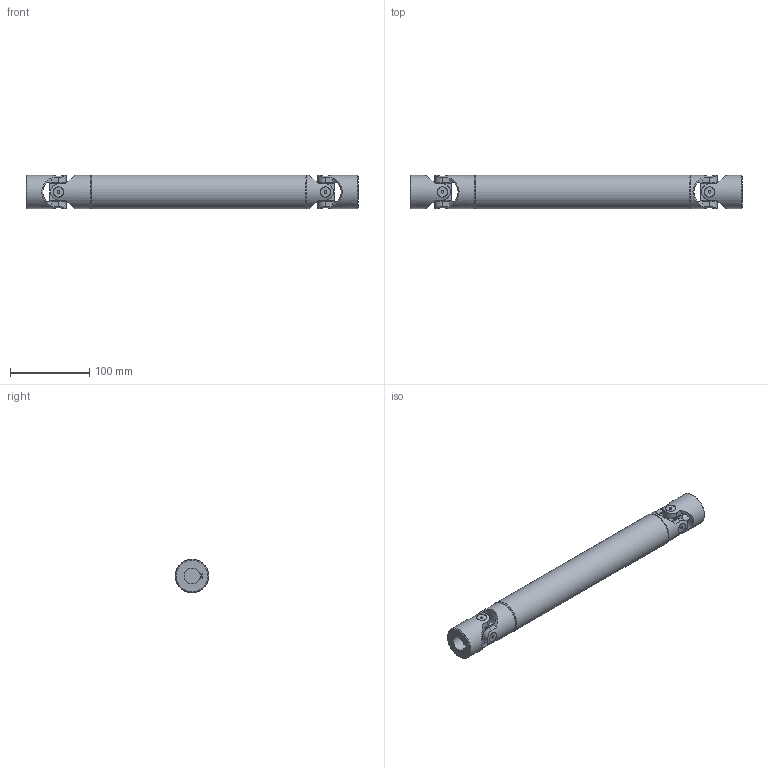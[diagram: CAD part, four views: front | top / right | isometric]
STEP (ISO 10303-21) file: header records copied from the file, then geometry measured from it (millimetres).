
FILE_DESCRIPTION(/* description */ (''),/* implementation_level */ '2;1');
FILE_NAME(/* name */ '\\SRV2016\Societa\Stefano\Disegni 3D\00Catalogo 3D\03Trasmissioni standard GA\3GA26\3GA26_SG0A2026.stp',/* time_stamp */ '2022-12-05T16:49:38+01:00',/* author */ ('acquisti'),/* organization */ (''),/* preprocessor_version */ 'ST-DEVELOPER v15.6',/* originating_system */ 'Autodesk Inventor 2015',/* authorisation */ '');
FILE_SCHEMA (('AUTOMOTIVE_DESIGN { 1 0 10303 214 3 1 1 }'));
Length unit declared in the file: millimetre
Products named in the file (5): 3GA26 LAI; 3GA26 LCI; 3G SFE; 3G MOC; 3GA26_SG0A2026
Assembly tree (6 placements, depth 2):
  3GA26_SG0A2026
    3GA26 LAI
    3GA26 LCI
    3G SFE  x2
    3G MOC  x2
Bounding box: 420 x 42.5 x 42.5 mm (x, y, z)
Volume: 404971.1 mm3; surface area: 128941.4 mm2
Topology: 6 solids, 6 shells, 228 faces, 561 edges, 369 vertices
Faces by surface type: plane 106, cylinder 93, cone 25, torus 4
Full cylindrical faces by diameter (mm): 3 x8, 18 x8, 20 x1, 22 x2, 35 x1, 42 x4, 42.5 x1
Entity records: 5785 total; most frequent: CARTESIAN_POINT 1675, DIRECTION 823, ORIENTED_EDGE 820, EDGE_CURVE 410, AXIS2_PLACEMENT_3D 335, VERTEX_POINT 286, EDGE_LOOP 224, FACE_OUTER_BOUND 176
